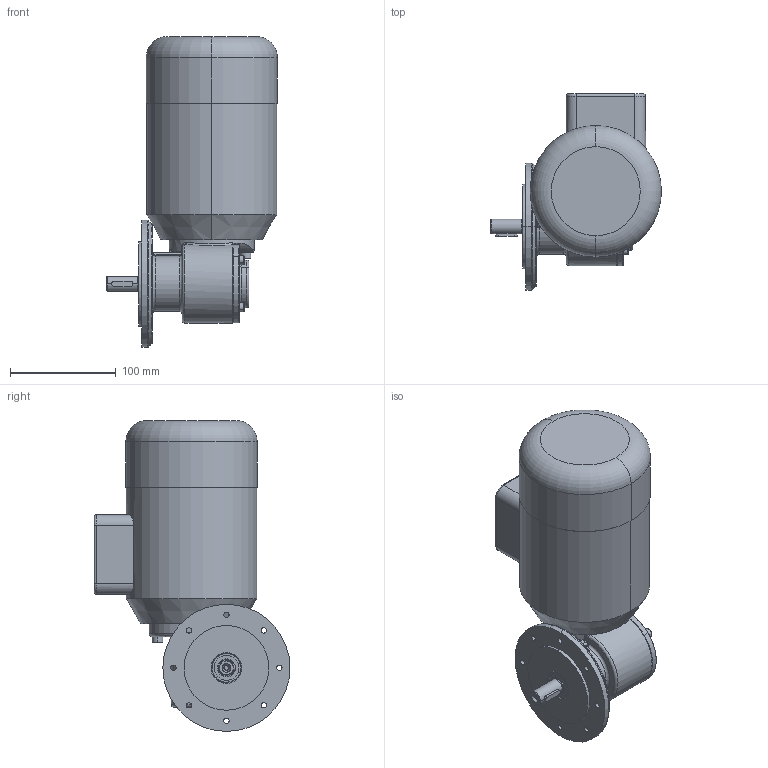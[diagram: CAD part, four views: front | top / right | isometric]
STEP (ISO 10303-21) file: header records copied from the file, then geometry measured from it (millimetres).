
FILE_DESCRIPTION (( 'STEP AP214' ), '1' );
FILE_NAME ('SN3FL_120W_180W_250W_C.STEP', '2021-03-16T11:09:02', ( '' ), ( '' ), 'SwSTEP 2.0', 'SolidWorks 2019', '' );
FILE_SCHEMA (( 'AUTOMOTIVE_DESIGN' ));
Length unit declared in the file: millimetre
Products named in the file (1): SN3FL_120W_180W_250W_C
Bounding box: 161.4 x 185 x 293.5 mm (x, y, z)
Surface area: 162168.5 mm2 (no closed solid volume)
Topology: 0 solids, 15 shells, 266 faces, 738 edges, 459 vertices
Faces by surface type: cylinder 93, plane 85, cone 44, torus 38, bspline 6
Entity records: 12036 total; most frequent: CARTESIAN_POINT 2237, DIRECTION 1553, ORIENTED_EDGE 1286, EDGE_CURVE 724, AXIS2_PLACEMENT_3D 613, VERTEX_POINT 459, CIRCLE 352, VECTOR 327
